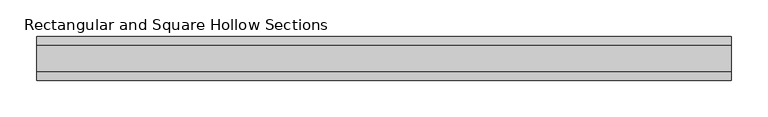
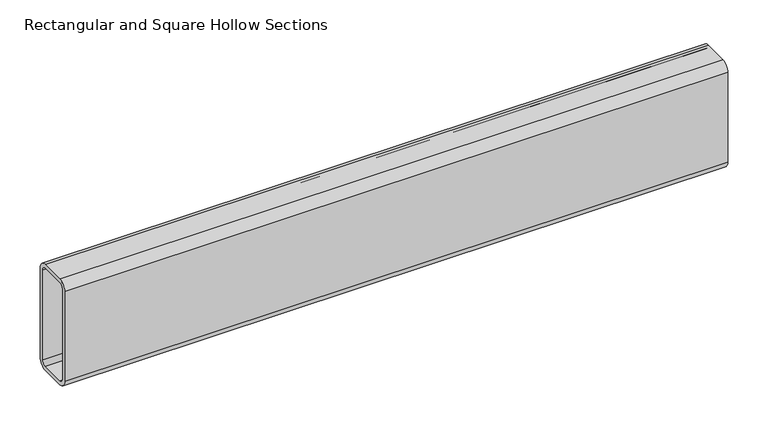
"""IFC4 building model written with IfcOpenShell, lengths in millimetres: beam geometry, Rectangular and Square Hollow Sections : TREC160x60x6."""

import ifcopenshell
import ifcopenshell.guid

model = None  # the IFC model being written
_history = None  # IfcOwnerHistory: only IFC2X3 demands one
_inside = {}  # id of a spatial element -> (the spatial element, [elements in it])
_under = {}  # id of a project, library or spatial element -> (it, [spatial elements below it])
_declared = {}  # id of a project -> (the project, [libraries it declares])
_typed = {}  # id of a type object -> (the type object, [elements of that type])
_made_of = {}  # id of a material, layer set ... -> (it, [elements and type objects made of it])


def new_model(schema):
    """Start an empty IFC model of exactly this schema.

    Asked for "IFC4X3", IfcOpenShell would pick the latest addendum, in which some entities
    have other attributes; the version numbers below select the first issue.
    IFC2X3 requires an IfcOwnerHistory on every rooted entity: one is made here for all.
    """
    global model, _history
    if schema == "IFC4X3":
        model = ifcopenshell.file(schema_version=(4, 3, 0, 0))
    else:
        model = ifcopenshell.file(schema=schema)
    _inside.clear()
    _under.clear()
    _declared.clear()
    _typed.clear()
    _made_of.clear()
    _history = None
    if model.schema == "IFC2X3":
        org = make("IfcOrganization", Name="unknown")
        user = make(
            "IfcPersonAndOrganization",
            ThePerson=make("IfcPerson", FamilyName="unknown"),
            TheOrganization=org,
        )
        app = make(
            "IfcApplication",
            ApplicationDeveloper=org,
            Version="unknown",
            ApplicationFullName="unknown",
            ApplicationIdentifier="unknown",
        )
        _history = make(
            "IfcOwnerHistory",
            OwningUser=user,
            OwningApplication=app,
            ChangeAction="ADDED",
            CreationDate=0,
        )
    return model


def make(cls, **values):
    """One entity of the class cls with the attributes given. An attribute that is None is left unset."""
    return model.create_entity(
        cls, **{name: value for name, value in values.items() if value is not None}
    )


def rooted(cls, **values):
    """An entity with a GlobalId (a new one), such as an element, a storey or a relation."""
    return make(cls, GlobalId=ifcopenshell.guid.new(), OwnerHistory=_history, **values)


def si_unit(unit_type, name, prefix=None):
    """IfcSIUnit, for example si_unit("LENGTHUNIT", "METRE", prefix="MILLI")."""
    return make("IfcSIUnit", UnitType=unit_type, Prefix=prefix, Name=name)


def assignment(units):
    """IfcUnitAssignment: the units of a project."""
    return None if units is None else make("IfcUnitAssignment", Units=units)


def point(xyz):
    """IfcCartesianPoint."""
    return None if xyz is None else make("IfcCartesianPoint", Coordinates=xyz)


def direction(xyz):
    """IfcDirection."""
    return None if xyz is None else make("IfcDirection", DirectionRatios=xyz)


def frame(location, z_axis=None, x_axis=None):
    """IfcAxis2Placement3D, a coordinate frame: its origin and axes. An axis left out is left unset."""
    return make(
        "IfcAxis2Placement3D",
        Location=point(location),
        Axis=direction(z_axis),
        RefDirection=direction(x_axis),
    )


def frame_2d(location, x_axis=None):
    """IfcAxis2Placement2D, a coordinate frame in the plane: its origin and x axis."""
    return make(
        "IfcAxis2Placement2D", Location=point(location), RefDirection=direction(x_axis)
    )


def origin():
    """The frame at (0, 0, 0) with its axes left unset."""
    return frame((0.0, 0.0, 0.0))


def place(relative_to, where):
    """IfcLocalPlacement: puts the frame where relative to a parent placement (None: the world)."""
    return make(
        "IfcLocalPlacement", PlacementRelTo=relative_to, RelativePlacement=where
    )


def context(
    kind, dimensions, precision=None, world=None, true_north=None, identifier=None
):
    """IfcGeometricRepresentationContext, for example the 3D "Model" context."""
    return make(
        "IfcGeometricRepresentationContext",
        ContextIdentifier=identifier,
        ContextType=kind,
        CoordinateSpaceDimension=dimensions,
        Precision=precision,
        WorldCoordinateSystem=world,
        TrueNorth=true_north,
    )


def project(units=None, contexts=None):
    """IfcProject with its units and contexts."""
    return rooted(
        "IfcProject",
        Name="project",
        RepresentationContexts=contexts,
        UnitsInContext=assignment(units),
    )


def spatial(cls, under=None, at=None, **own):
    """A site, building, storey or space (cls), placed at a placement, below another one or the project."""
    s = rooted(cls, ObjectPlacement=at, **own)
    if under is not None:
        _under.setdefault(under.id(), (under, []))[1].append(s)
    return s


def polyline(points):
    """IfcPolyline through the points."""
    return make("IfcPolyline", Points=[point(p) for p in points])


def circle_curve(where, radius):
    """IfcCircle in the frame where."""
    return make("IfcCircle", Position=where, Radius=radius)


def trimmed(basis, trim1, trim2, sense, master):
    """IfcTrimmedCurve: the piece of a basis curve between two trims."""
    return make(
        "IfcTrimmedCurve",
        BasisCurve=basis,
        Trim1=trim1,
        Trim2=trim2,
        SenseAgreement=sense,
        MasterRepresentation=master,
    )


def segment(curve, same_sense, transition):
    """IfcCompositeCurveSegment."""
    return make(
        "IfcCompositeCurveSegment",
        Transition=transition,
        SameSense=same_sense,
        ParentCurve=curve,
    )


def composite_curve(segments, self_intersect=None):
    """IfcCompositeCurve: segments joined end to end."""
    return make("IfcCompositeCurve", Segments=segments, SelfIntersect=self_intersect)


def outline(outer, holes=None, kind="AREA"):
    """IfcArbitraryClosedProfileDef: a profile drawn as a closed curve; with holes, ...WithVoids."""
    if holes is None:
        return make("IfcArbitraryClosedProfileDef", ProfileType=kind, OuterCurve=outer)
    return make(
        "IfcArbitraryProfileDefWithVoids",
        ProfileType=kind,
        OuterCurve=outer,
        InnerCurves=holes,
    )


def extrude(swept, where, along, depth):
    """IfcExtrudedAreaSolid: the profile swept, set in the frame where, extruded along a direction by depth."""
    return make(
        "IfcExtrudedAreaSolid",
        SweptArea=swept,
        Position=where,
        ExtrudedDirection=direction(along),
        Depth=depth,
    )


def shape(context_of_items, identifier, shape_type, items):
    """IfcShapeRepresentation: the items that make up one representation, for example the "Body"."""
    return make(
        "IfcShapeRepresentation",
        ContextOfItems=context_of_items,
        RepresentationIdentifier=identifier,
        RepresentationType=shape_type,
        Items=items,
    )


def source(mapping_origin, context_of_items, identifier, shape_type, items):
    """IfcRepresentationMap: a shape defined once, which mapped items show again and again."""
    return make(
        "IfcRepresentationMap",
        MappingOrigin=mapping_origin,
        MappedRepresentation=shape(context_of_items, identifier, shape_type, items),
    )


def transform(
    local_origin,
    x_axis=None,
    y_axis=None,
    z_axis=None,
    scale=None,
    scale2=None,
    scale3=None,
    uniform=True,
):
    """IfcCartesianTransformationOperator3D, or its non-uniform kind. x_axis, y_axis, z_axis: its Axis1, 2, 3."""
    if uniform:
        return make(
            "IfcCartesianTransformationOperator3D",
            Axis1=direction(x_axis),
            Axis2=direction(y_axis),
            LocalOrigin=point(local_origin),
            Scale=scale,
            Axis3=direction(z_axis),
        )
    return make(
        "IfcCartesianTransformationOperator3DnonUniform",
        Axis1=direction(x_axis),
        Axis2=direction(y_axis),
        LocalOrigin=point(local_origin),
        Scale=scale,
        Axis3=direction(z_axis),
        Scale2=scale2,
        Scale3=scale3,
    )


def mapped(mapping_source, mapping_target):
    """IfcMappedItem: shows the shape of a source again, moved by a transform."""
    return make(
        "IfcMappedItem", MappingSource=mapping_source, MappingTarget=mapping_target
    )


def made_of(thing, what):
    """Note that an element or type object is made of a material, layer set ...; save() writes the relation."""
    if what is not None:
        _made_of.setdefault(what.id(), (what, []))[1].append(thing)
    return thing


def element(
    cls,
    number,
    at=None,
    inside=None,
    cuts=None,
    type_object=None,
    material=None,
    context=None,
    identifier="Body",
    shape_type=None,
    held_by="IfcProductDefinitionShape",
    body=None,
    shapes=None,
    **own,
):
    """One element of the class cls, such as IfcWall. Its Tag is "e" and its number.

    at: its placement. inside: the storey or other place that contains it. cuts: it is an
    opening in that element (IfcRelVoidsElement). A single representation is given by context,
    identifier, shape_type and body (its items); several are given by shapes. held_by: the class
    of the entity that holds the representations. save() writes the other relations.
    """
    e = rooted(cls, Tag="e%d" % number, ObjectPlacement=at, **own)
    if body is not None:
        shapes = [shape(context, identifier, shape_type, body)]
    if shapes is not None:
        e.Representation = make(held_by, Representations=shapes)
    if inside is not None:
        _inside.setdefault(inside.id(), (inside, []))[1].append(e)
    if cuts is not None:
        rooted(
            "IfcRelVoidsElement", RelatingBuildingElement=cuts, RelatedOpeningElement=e
        )
    if type_object is not None:
        _typed.setdefault(type_object.id(), (type_object, []))[1].append(e)
    return made_of(e, material)


def aggregate(whole, parts):
    """IfcRelAggregates: a whole, such as a stair, and the parts it consists of."""
    return rooted("IfcRelAggregates", RelatingObject=whole, RelatedObjects=parts)


def save(model, path):
    """Write the relations noted so far, then the file.

    IfcRelAggregates (storeys below a building ...), IfcRelContainedInSpatialStructure (elements
    in a storey), IfcRelDefinesByType, IfcRelAssociatesMaterial and IfcRelDeclares: one each for
    every whole, place, type object, material and project.
    """
    for whole, parts in _under.values():
        aggregate(whole, parts)
    for where, things in _inside.values():
        rooted(
            "IfcRelContainedInSpatialStructure",
            RelatedElements=things,
            RelatingStructure=where,
        )
    for kind, things in _typed.values():
        rooted("IfcRelDefinesByType", RelatedObjects=things, RelatingType=kind)
    for what, things in _made_of.values():
        rooted("IfcRelAssociatesMaterial", RelatedObjects=things, RelatingMaterial=what)
    for by, libraries in _declared.values():
        rooted("IfcRelDeclares", RelatingContext=by, RelatedDefinitions=libraries)
    model.write(path)


def rectangular_and_square_hollow_sections_489ac4a4(model_context):
    return source(origin(), model_context, "Body", "SweptSolid", [
        extrude(outline(composite_curve([segment(polyline([(30.0, 68.0), (30.0, -68.0)]), True, "CONTINUOUS"), segment(trimmed(circle_curve(frame_2d((18.0, -68.0)), 12.0), [point((30.0, -68.0))], [point((18.0, -80.0))], False, "CARTESIAN"), True, "CONTINUOUS"), segment(polyline([(18.0, -80.0), (-18.0, -80.0)]), True, "CONTINUOUS"), segment(trimmed(circle_curve(frame_2d((-18.0, -68.0)), 12.0), [point((-18.0, -80.0))], [point((-30.0, -68.0))], False, "CARTESIAN"), True, "CONTINUOUS"), segment(polyline([(-30.0, -68.0), (-30.0, 68.0)]), True, "CONTINUOUS"), segment(trimmed(circle_curve(frame_2d((-18.0, 68.0)), 12.0), [point((-30.0, 68.0))], [point((-18.0, 80.0))], False, "CARTESIAN"), True, "CONTINUOUS"), segment(polyline([(-18.0, 80.0), (18.0, 80.0)]), True, "CONTINUOUS"), segment(trimmed(circle_curve(frame_2d((18.0, 68.0)), 12.0), [point((18.0, 80.0))], [point((30.0, 68.0))], False, "CARTESIAN"), True, "CONTINUOUS")], self_intersect=False), holes=[composite_curve([segment(trimmed(circle_curve(frame_2d((-18.0, 68.0)), 6.0), [point((-18.0, 74.0))], [point((-24.0, 68.0))], True, "CARTESIAN"), True, "CONTINUOUS"), segment(polyline([(-24.0, 68.0), (-24.0, -68.0)]), True, "CONTINUOUS"), segment(trimmed(circle_curve(frame_2d((-18.0, -68.0)), 6.0), [point((-24.0, -68.0))], [point((-18.0, -74.0))], True, "CARTESIAN"), True, "CONTINUOUS"), segment(polyline([(-18.0, -74.0), (18.0, -74.0)]), True, "CONTINUOUS"), segment(trimmed(circle_curve(frame_2d((18.0, -68.0)), 6.0), [point((18.0, -74.0))], [point((24.0, -68.0))], True, "CARTESIAN"), True, "CONTINUOUS"), segment(polyline([(24.0, -68.0), (24.0, 68.0)]), True, "CONTINUOUS"), segment(trimmed(circle_curve(frame_2d((18.0, 68.0)), 6.0), [point((24.0, 68.0))], [point((18.0, 74.0))], True, "CARTESIAN"), True, "CONTINUOUS"), segment(polyline([(18.0, 74.0), (-18.0, 74.0)]), True, "CONTINUOUS")], self_intersect=False)]), frame((-474.5, 0.0, 0.0), z_axis=(1.0, 0.0, 0.0), x_axis=(0.0, 1.0, 0.0)), (0.0, 0.0, 1.0), 948.0),
    ])


if __name__ == "__main__":
    model = new_model("IFC4")
    model_context = context("Model", 3, world=origin())
    ifc_project = project(units=[si_unit("LENGTHUNIT", "METRE", prefix="MILLI")], contexts=[model_context])
    site = spatial("IfcSite", under=ifc_project)
    building = spatial("IfcBuilding", under=site)
    placement = place(None, origin())
    rectangular_and_square_hollow_sections_shape = rectangular_and_square_hollow_sections_489ac4a4(model_context)
    element("IfcBeam", 1, ObjectType="Rectangular and Square Hollow Sections : TREC160x60x6", at=placement, inside=building, context=model_context, shape_type="MappedRepresentation", body=[
        mapped(rectangular_and_square_hollow_sections_shape, transform((0.0, 0.0, 0.0), x_axis=(1.0, 0.0, 0.0), y_axis=(0.0, 1.0, 0.0), z_axis=(0.0, 0.0, 1.0))),
    ])
    save(model, "model.ifc")
